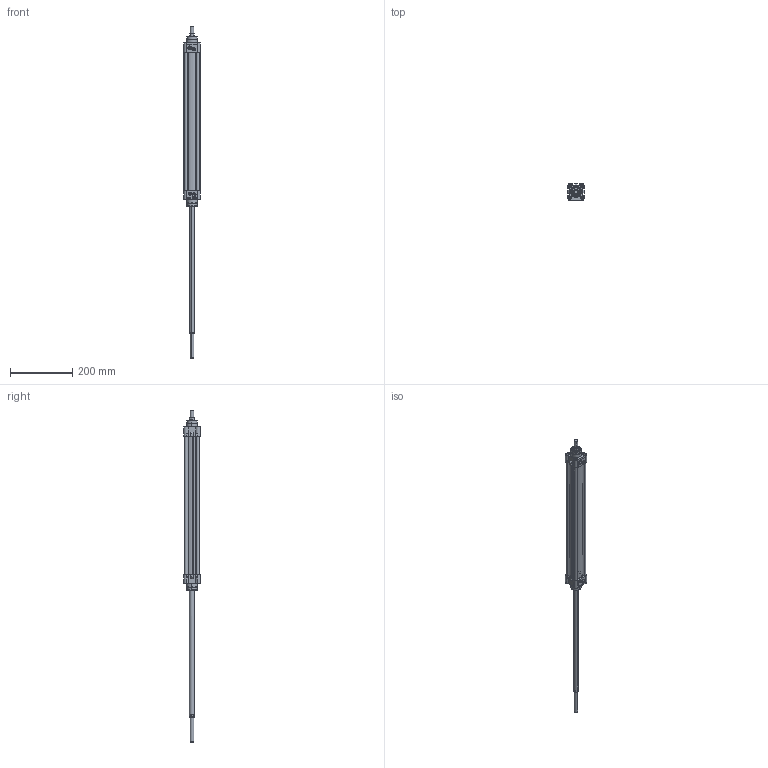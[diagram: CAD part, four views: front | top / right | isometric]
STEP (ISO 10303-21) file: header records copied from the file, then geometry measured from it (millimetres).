
FILE_DESCRIPTION (( 'STEP AP203' ), '1' );
FILE_NAME ('KDNT40X400CIFTMILLI-STROK AYARLI-CYLINDER.STEP', '2016-03-24T12:05:52', ( 'user' ), ( '' ), 'SwSTEP 2.0', 'SolidWorks 2013', '' );
FILE_SCHEMA (( 'CONFIG_CONTROL_DESIGN' ));
Length unit declared in the file: millimetre
Products named in the file (6): ORTA PÝSTON 40 Çift Milli; PÝSTON MÝLÝ 40X400; Saplama Mili STROK AYARLI 40X400 STROK; KDNT40X400CIFTMILLI-STROK AYARLI-CYLINDER; 烰 KAPAK  40; KDNT 40X400 BORU
Assembly tree (6 placements, depth 2):
  KDNT40X400CIFTMILLI-STROK AYARLI-CYLINDER
    烰 KAPAK  40  x2
    KDNT 40X400 BORU
    ORTA PÝSTON 40 Çift Milli
    PÝSTON MÝLÝ 40X400
    Saplama Mili STROK AYARLI 40X400 STROK
Bounding box: 53.06 x 53.36 x 1069.1 mm (x, y, z)
Volume: 634169.8 mm3; surface area: 307199 mm2
Topology: 6 solids, 6 shells, 712 faces, 1724 edges, 1076 vertices
Faces by surface type: cylinder 322, plane 210, cone 112, bspline 54, torus 14
Entity records: 16497 total; most frequent: CARTESIAN_POINT 4805, DIRECTION 2340, ORIENTED_EDGE 2302, EDGE_CURVE 1151, AXIS2_PLACEMENT_3D 917, VERTEX_POINT 725, EDGE_LOOP 544, LINE 506
